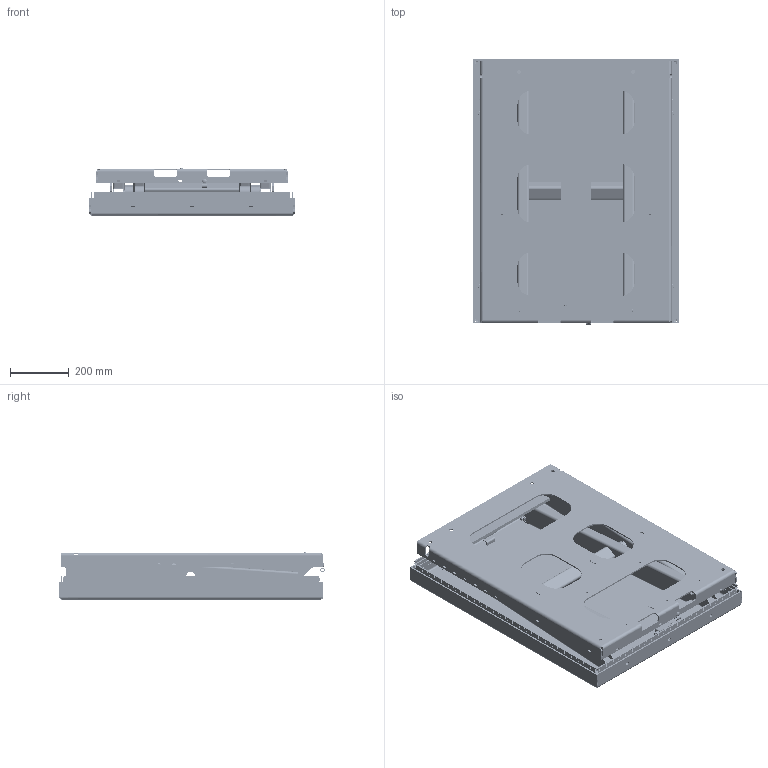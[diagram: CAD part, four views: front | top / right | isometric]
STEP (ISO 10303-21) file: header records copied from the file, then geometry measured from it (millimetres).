
FILE_DESCRIPTION(/* description */ ('TR 501 900x700'),/* implementation_level */ '2;1');
FILE_NAME(/* name */ 'C:\Autodesk_VaultWork\Ritningar\Exporterade modeller\TR 501 - (609945)\609945_Closed-Height.stp',/* time_stamp */ '2017-01-09T07:41:46+01:00',/* author */ ('HANVI'),/* organization */ (''),/* preprocessor_version */ 'ST-DEVELOPER v16.5',/* originating_system */ 'Autodesk Inventor 2017',/* authorisation */ '');
FILE_SCHEMA (('AUTOMOTIVE_DESIGN { 1 0 10303 214 3 1 1 }'));
Products named in the file (58): 609945; 609548; 609546; 608176; 82153 - 850; 82729 - 320; 44669; 608171; 608170; 82153 - 850_1; 608173; 82156; 600319; 600318; 44681; 600335; 600336; 45258; 84101; 42394; 35731-900x700; 43056-670; 43056-870; 42330; 43481; 80473; 33990; 33991; 44283; 44280; 44279; Compression-Spring-SF-TF1272-SS1774-04-Lesjofors-STEP; ISO 7089 - 5 - 140 HV; 84253; 44281; 44281-1; ISO 2009 - M4 x 12; 84076; 83928; 44277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
Assembly tree (121 placements, depth 5):
  609945
    609548
      609546
        608176  x2
          82153 - 850
        82729 - 320
        44669  x2
      608171
        608170  x2
          82153 - 850_1
        608173
      82156  x2
    600319
      600318
      45258  x2
      44681  x2
    600335
      600336
      45258  x2
      84101  x4
      42394  x2
    83209  x8
    35731-900x700
      43056-670  x2
      43056-870  x2
      42330  x4
      43481  x4
      80473  x4
      33990  x2
        33991
        44283
        44280
        44279
        Compression-Spring-SF-TF1272-SS1774-04-Lesjofors-STEP
        ISO 7089 - 5 - 140 HV
        84253
        44281
          44281-1
          ISO 2009 - M4 x 12
        84076
        83928
        44277
        44278
        33992
        ISO 7380 - M4 x 10
    42584  x4
    42513  x8
    32954  x2
    83242  x2
    84409  x2
    42401  x2
    82021  x2
    70015  x8
    83241  x6
    85254
    85799
    85232
    84089
    85240  x2
Bounding box: 700 x 904.99 x 161 mm (x, y, z)
Volume: 10955040.1 mm3; surface area: 5193998 mm2
Topology: 132 solids, 132 shells, 5575 faces, 14835 edges, 9762 vertices
Faces by surface type: plane 2842, cylinder 1865, bspline 518, cone 287, torus 62, sphere 1
Full cylindrical faces by diameter (mm): 0.474 x2, 1 x4, 3 x4, 3.141 x4, 3.2 x4, 3.242 x4, 4 x14, 4.3 x4, 4.9 x2, 4.917 x1, 5 x4, 5.2 x6, 5.3 x4, 6 x1, 6.4 x2, 6.647 x4, 6.7 x1, 6.8 x9, 7.4 x8, 7.6 x4, 8 x13, 8.376 x8, 8.5 x4, 10 x14, 10.5 x6, 11 x28, 11.63 x4, 12 x6, 13 x13, 14.6 x8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
Entity records: 91507 total; most frequent: CARTESIAN_POINT 25554, ORIENTED_EDGE 13548, DIRECTION 12875, EDGE_CURVE 6773, VERTEX_POINT 4557, AXIS2_PLACEMENT_3D 4296, LINE 4283, VECTOR 4283
